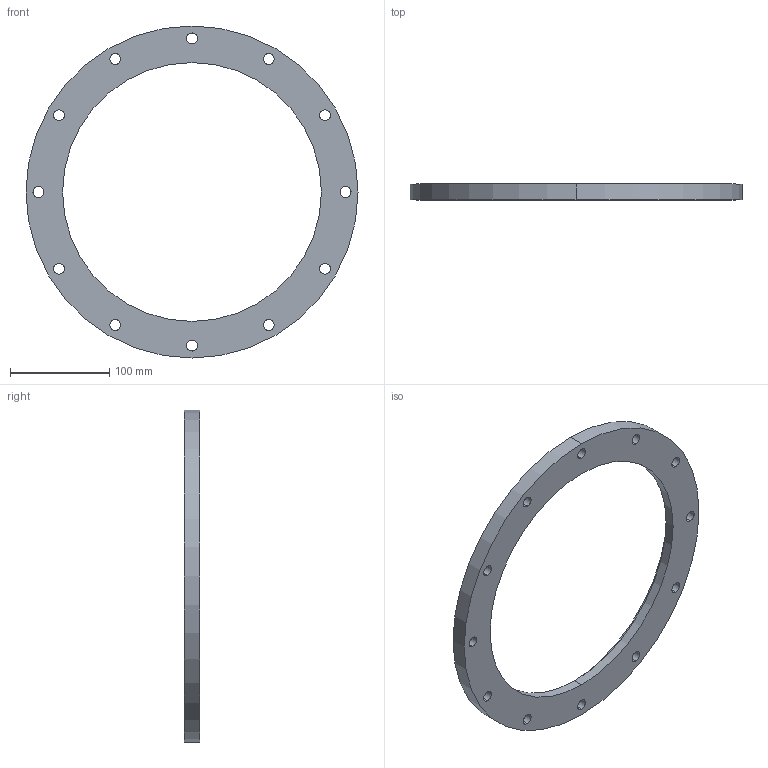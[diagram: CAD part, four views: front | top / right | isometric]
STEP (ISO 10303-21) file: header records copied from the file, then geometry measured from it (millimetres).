
FILE_DESCRIPTION (( 'STEP AP214' ), '1' );
FILE_NAME ('W5KL250.STEP', '2019-04-01T13:19:12', ( '' ), ( '' ), 'SwSTEP 2.0', 'SolidWorks 2018', '' );
FILE_SCHEMA (( 'AUTOMOTIVE_DESIGN' ));
Length unit declared in the file: millimetre
Products named in the file (1): W5KL250
Bounding box: 335 x 16 x 335 mm (x, y, z)
Volume: 502796.1 mm3; surface area: 103757.1 mm2
Topology: 1 solids, 1 shells, 33 faces, 90 edges, 60 vertices
Faces by surface type: cylinder 30, plane 3
Entity records: 1170 total; most frequent: DIRECTION 218, CARTESIAN_POINT 184, ORIENTED_EDGE 180, AXIS2_PLACEMENT_3D 94, EDGE_CURVE 90, VERTEX_POINT 60, CIRCLE 60, EDGE_LOOP 60
